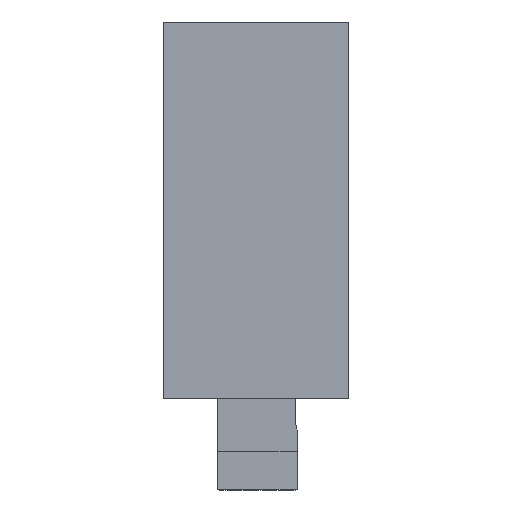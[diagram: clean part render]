
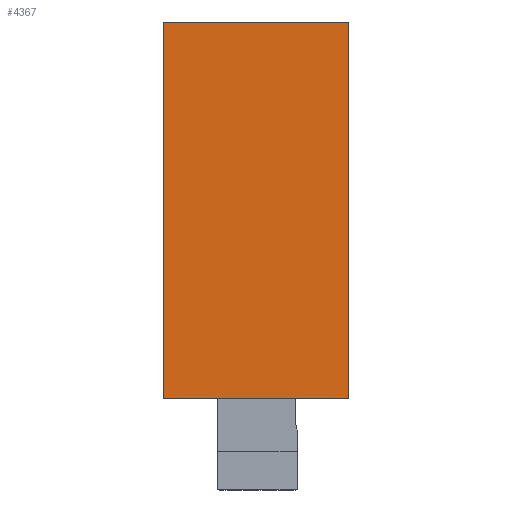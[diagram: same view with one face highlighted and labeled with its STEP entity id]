
A CAD part, top view. The second image highlights one B-rep face of the part: STEP entity #4367.
In plain terms, the highlighted planar face has unit normal (0, 0, 1).
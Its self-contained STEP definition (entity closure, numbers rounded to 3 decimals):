
#63 = LINE ( 'NONE', #2371, #579 ) ;
#579 = VECTOR ( 'NONE', #6989, 1000. ) ;
#671 = EDGE_CURVE ( 'NONE', #5495, #3340, #2153, .T. ) ;
#881 = LINE ( 'NONE', #3797, #2063 ) ;
#1141 = ORIENTED_EDGE ( 'NONE', *, *, #671, .F. ) ;
#1186 = CARTESIAN_POINT ( 'NONE',  ( 0., 0., 0.5 ) ) ;
#1233 = LINE ( 'NONE', #1945, #1485 ) ;
#1485 = VECTOR ( 'NONE', #6567, 1000. ) ;
#1945 = CARTESIAN_POINT ( 'NONE',  ( 0., 0., 0.5 ) ) ;
#2061 = CARTESIAN_POINT ( 'NONE',  ( 0., 0., 0.5 ) ) ;
#2063 = VECTOR ( 'NONE', #4357, 1000. ) ;
#2153 = LINE ( 'NONE', #2685, #2702 ) ;
#2296 = EDGE_LOOP ( 'NONE', ( #7011, #1141, #6305, #4104 ) ) ;
#2371 = CARTESIAN_POINT ( 'NONE',  ( 29.2, 0., 0.5 ) ) ;
#2382 = VERTEX_POINT ( 'NONE', #2061 ) ;
#2516 = CARTESIAN_POINT ( 'NONE',  ( 0., 59.2, 0.5 ) ) ;
#2685 = CARTESIAN_POINT ( 'NONE',  ( 0., 59.2, 0.5 ) ) ;
#2702 = VECTOR ( 'NONE', #4392, 1000. ) ;
#2787 = CARTESIAN_POINT ( 'NONE',  ( 29.2, 59.2, 0.5 ) ) ;
#2970 = EDGE_CURVE ( 'NONE', #3340, #4676, #63, .T. ) ;
#3340 = VERTEX_POINT ( 'NONE', #2787 ) ;
#3797 = CARTESIAN_POINT ( 'NONE',  ( 0., 0., 0.5 ) ) ;
#4104 = ORIENTED_EDGE ( 'NONE', *, *, #6111, .T. ) ;
#4123 = AXIS2_PLACEMENT_3D ( 'NONE', #1186, #5650, #5077 ) ;
#4357 = DIRECTION ( 'NONE',  ( 0., -1., 0. ) ) ;
#4367 = ADVANCED_FACE ( 'NONE', ( #6362 ), #4554, .T. ) ;
#4392 = DIRECTION ( 'NONE',  ( 1., 0., 0. ) ) ;
#4524 = CARTESIAN_POINT ( 'NONE',  ( 29.2, 0., 0.5 ) ) ;
#4554 = PLANE ( 'NONE',  #4123 ) ;
#4676 = VERTEX_POINT ( 'NONE', #4524 ) ;
#4786 = EDGE_CURVE ( 'NONE', #5495, #2382, #881, .T. ) ;
#5077 = DIRECTION ( 'NONE',  ( 1., 0., 0. ) ) ;
#5495 = VERTEX_POINT ( 'NONE', #2516 ) ;
#5650 = DIRECTION ( 'NONE',  ( 0., 0., 1. ) ) ;
#6111 = EDGE_CURVE ( 'NONE', #2382, #4676, #1233, .T. ) ;
#6305 = ORIENTED_EDGE ( 'NONE', *, *, #4786, .T. ) ;
#6362 = FACE_OUTER_BOUND ( 'NONE', #2296, .T. ) ;
#6567 = DIRECTION ( 'NONE',  ( 1., 0., 0. ) ) ;
#6989 = DIRECTION ( 'NONE',  ( 0., -1., 0. ) ) ;
#7011 = ORIENTED_EDGE ( 'NONE', *, *, #2970, .F. ) ;
